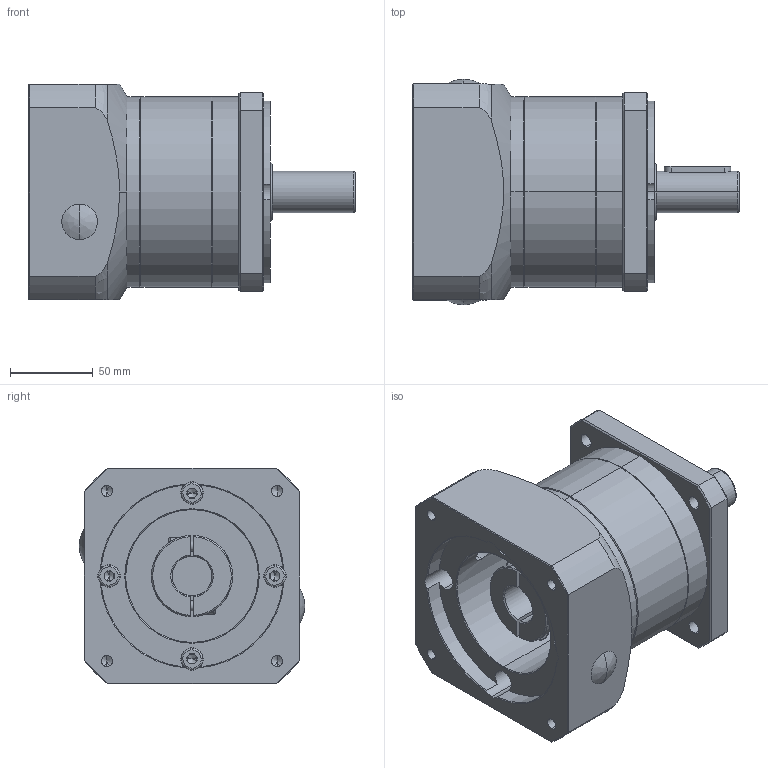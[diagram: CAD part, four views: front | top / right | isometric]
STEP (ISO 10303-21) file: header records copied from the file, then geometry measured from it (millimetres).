
FILE_DESCRIPTION (( 'STEP AP214' ), '1' );
FILE_NAME ('PLF-120-L1-S2-P2 24-110-145-M8.STEP', '2023-08-17T05:37:12', ( '微软用户' ), ( '微软中国' ), 'SwSTEP 2.0', 'SolidWorks 2018', '' );
FILE_SCHEMA (( 'AUTOMOTIVE_DESIGN' ));
Length unit declared in the file: millimetre
Products named in the file (8): PLF-120黑裔15; PLF-120薊粣ん-俋倛24; PLF-120怀堤傷裔-源; PLF-120一级齿圈-外形; PLF-120输入端盖-外形110-M8-145; hexagon socket head cap screws gb_GB_FASTENER_SCREWS_HSHCS M6X20-N; PLF-120-L1-S2-P2 24-110-145-M8; hexagon socket head cap screws gb_GB_FASTENER_SCREWS_HSHCS M8X25-N
Assembly tree (16 placements, depth 2):
  PLF-120-L1-S2-P2 24-110-145-M8
    PLF-120怀堤傷裔-源
    PLF-120一级齿圈-外形
    PLF-120输入端盖-外形110-M8-145
    PLF-120薊粣ん-俋倛24
    hexagon socket head cap screws gb_GB_FASTENER_SCREWS_HSHCS M6X20-N  x2
    PLF-120黑裔15  x2
    hexagon socket head cap screws gb_GB_FASTENER_SCREWS_HSHCS M8X25-N  x8
Bounding box: 196.5 x 136 x 130 mm (x, y, z)
Volume: 1328767.5 mm3; surface area: 200830.6 mm2
Topology: 17 solids, 17 shells, 526 faces, 1259 edges, 773 vertices
Faces by surface type: plane 234, cylinder 168, cone 90, bspline 34
Entity records: 13627 total; most frequent: CARTESIAN_POINT 2500, DIRECTION 1644, ORIENTED_EDGE 1488, EDGE_CURVE 744, AXIS2_PLACEMENT_3D 672, VERTEX_POINT 476, EDGE_LOOP 368, CIRCLE 363
